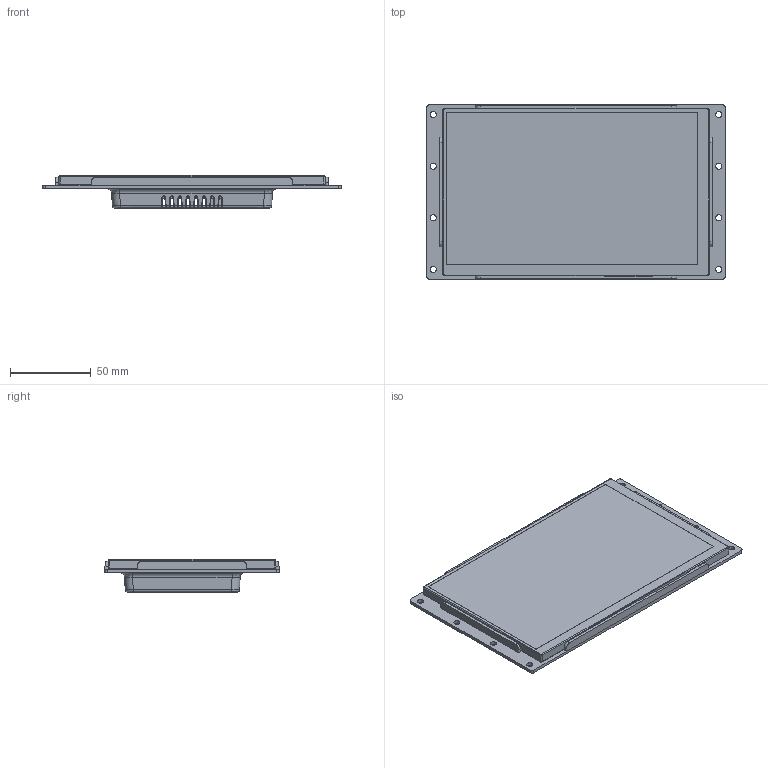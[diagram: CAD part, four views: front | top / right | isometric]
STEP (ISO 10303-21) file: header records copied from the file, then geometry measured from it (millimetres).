
FILE_DESCRIPTION (( 'STEP AP214' ), '1' );
FILE_NAME ('MDP070N_forstep_rev0.STEP', '2025-01-02T09:26:50', ( '' ), ( '' ), 'SwSTEP 2.0', 'SolidWorks 2020', '' );
FILE_SCHEMA (( 'AUTOMOTIVE_DESIGN' ));
Length unit declared in the file: millimetre
Products named in the file (1): MDP070N_forstep_rev0
Bounding box: 185 x 108 x 20.5 mm (x, y, z)
Volume: 155572.7 mm3; surface area: 101093.4 mm2
Topology: 1 solids, 1 shells, 1318 faces, 3590 edges, 2270 vertices
Faces by surface type: plane 790, cylinder 333, bspline 157, cone 17, torus 15, sphere 6
Full cylindrical faces by diameter (mm): 0.5 x9, 0.56 x1, 0.723 x1, 1.601 x1, 3.2 x4, 3.8 x8
Entity records: 45827 total; most frequent: CARTESIAN_POINT 13990, ORIENTED_EDGE 7094, DIRECTION 5912, EDGE_CURVE 3547, VECTOR 2574, LINE 2574, VERTEX_POINT 2267, AXIS2_PLACEMENT_3D 1669
